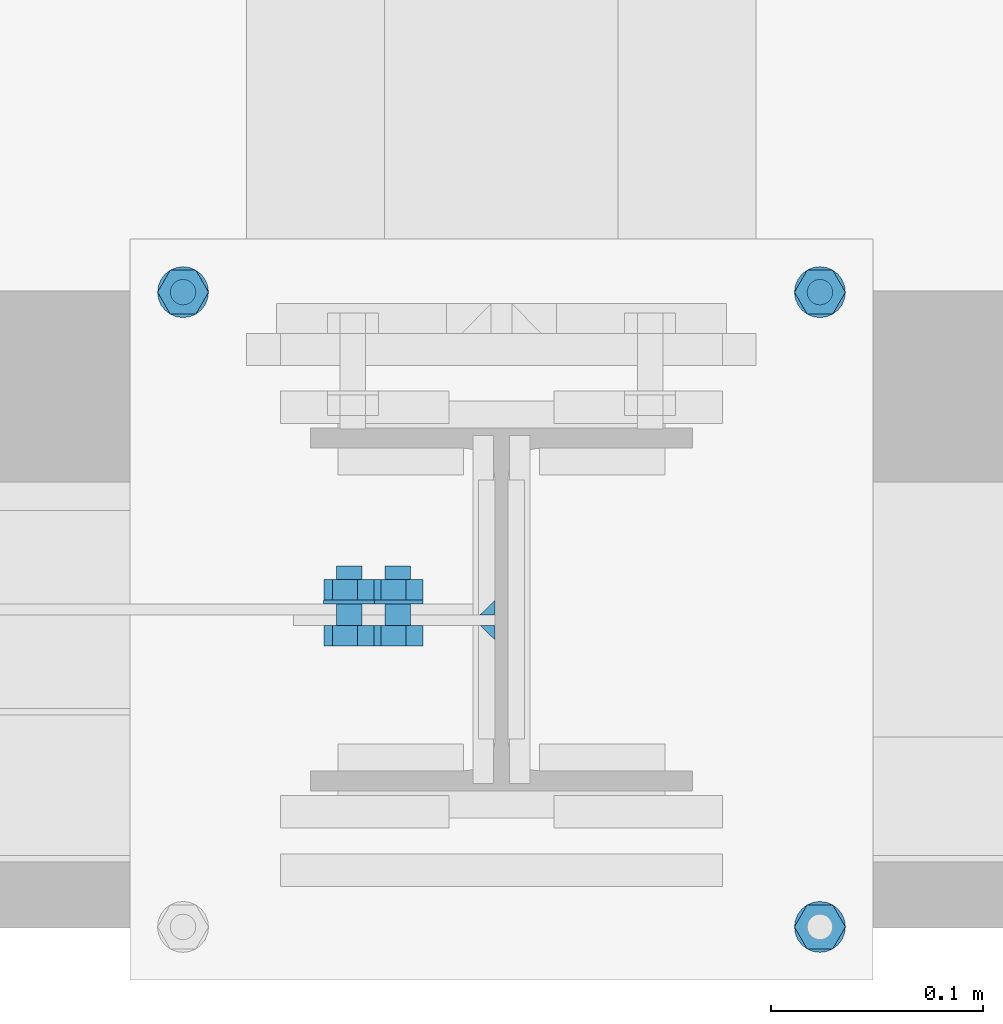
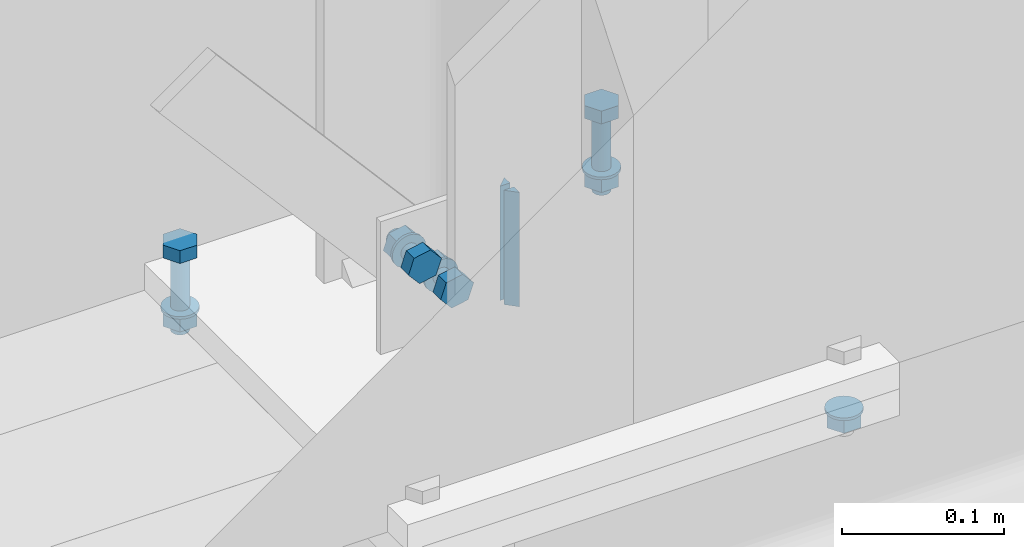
# One storey, part 30 of 66: 18 mechanical fasteners, 2 fasteners.
"""IFC4 building model written with IfcOpenShell, lengths in metres."""

from ifc_helpers import new_model, si_unit, frame, origin_with_axes, place, context, project, spatial, polyline, outline, extrude, type_object, element, save


model = new_model("IFC4")

# Units and contexts
model_context = context("Model", 3, precision=1e-05, world=origin_with_axes())
ifc_project = project(units=[si_unit("LENGTHUNIT", "METRE"), si_unit("AREAUNIT", "SQUARE_METRE"), si_unit("VOLUMEUNIT", "CUBIC_METRE"), si_unit("MASSUNIT", "GRAM", prefix="KILO"), si_unit("TIMEUNIT", "SECOND"), si_unit("PLANEANGLEUNIT", "RADIAN"), si_unit("SOLIDANGLEUNIT", "STERADIAN"), si_unit("THERMODYNAMICTEMPERATUREUNIT", "DEGREE_CELSIUS")], contexts=[model_context])

# Site, building, storey
placement_1 = place(None, origin_with_axes())
site = spatial("IfcSite", under=ifc_project, at=placement_1, Name="Italia", CompositionType="ELEMENT")
building = spatial("IfcBuilding", under=site, at=placement_1, Name="Uffici", CompositionType="ELEMENT")
storey_placement = place(None, frame((0.0, 0.0, 3.299999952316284), z_axis=(0.0, 0.0, 1.0), x_axis=(1.0, 0.0, 0.0)))
storey = spatial("IfcBuildingStorey", under=building, at=storey_placement, Name="Storey 1", CompositionType="ELEMENT", Elevation=3.299999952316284)

# Mechanical fasteners
mechanical_fastener_type_1 = type_object("IfcMechanicalFastenerType", Name="Collegamenti 0101_0201 0102_0202 0103_0203 0104_0204 0105_0205", PredefinedType="BOLT")
placement_2 = place(placement_1, origin_with_axes())
mechanical_fastener_1_placement = place(placement_2, origin_with_axes())
element("IfcMechanicalFastener", 1, at=mechanical_fastener_1_placement, inside=storey, type_object=mechanical_fastener_type_1, Name="Collegamenti 0101_0201 0102_0202 0103_0203 0104_0204 0105_0205", NominalDiameter=0.0119998, context=model_context, shape_type="SweptSolid", body=[
    extrude(outline(polyline([(0.0, 0.0), (0.0, 0.0119998), (0.0103923, 0.0179999), (0.0207846, 0.0119998), (0.0207846, 0.0), (0.0103923, -0.00600004), (0.0, 0.0)])), frame((3.361, -0.159892, 3.2684), z_axis=(0.0, 0.0, 1.0), x_axis=(0.0, 1.0, 0.0)), (0.0, 0.0, 1.0), 0.00959992),
])
mechanical_fastener_type_2 = type_object("IfcMechanicalFastenerType", Name="Collegamenti 0101_0201 0102_0202 0103_0203 0104_0204 0105_0205", PredefinedType="BOLT")
mechanical_fastener_2_placement = place(placement_2, origin_with_axes())
element("IfcMechanicalFastener", 2, at=mechanical_fastener_2_placement, inside=storey, type_object=mechanical_fastener_type_2, Name="Collegamenti 0101_0201 0102_0202 0103_0203 0104_0204 0105_0205", NominalDiameter=0.024, context=model_context, shape_type="SweptSolid", body=[
    extrude(outline(polyline([(0.0, 0.0), (-0.000408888, -0.00310588), (-0.00160769, -0.00600004), (-0.00351471, -0.00848532), (-0.006, -0.0103922), (-0.00889416, -0.0115912), (-0.012, -0.0120001), (-0.0151058, -0.0115912), (-0.018, -0.0103922), (-0.0204853, -0.00848532), (-0.0223923, -0.00600004), (-0.0235911, -0.00310588), (-0.024, 0.0), (-0.0235911, 0.00310588), (-0.0223923, 0.00600004), (-0.0204853, 0.00848532), (-0.018, 0.0103922), (-0.0151058, 0.0115912), (-0.012, 0.0120001), (-0.00889416, 0.0115912), (-0.006, 0.0103922), (-0.00351471, 0.00848532), (-0.00160769, 0.00600004), (-0.000408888, 0.00310588), (0.0, 0.0)])), frame((3.355, -0.1375, 3.278), z_axis=(0.0, 0.0, 1.0), x_axis=(0.0, 1.0, 0.0)), (0.0, 0.0, 1.0), 0.00200009),
])
mechanical_fastener_type_3 = type_object("IfcMechanicalFastenerType", Name="Collegamenti 0101_0201 0102_0202 0103_0203 0104_0204 0105_0205", PredefinedType="BOLT")
mechanical_fastener_3_placement = place(placement_2, origin_with_axes())
element("IfcMechanicalFastener", 3, at=mechanical_fastener_3_placement, inside=storey, type_object=mechanical_fastener_type_3, Name="Collegamenti 0101_0201 0102_0202 0103_0203 0104_0204 0105_0205", NominalDiameter=0.0119998, context=model_context, shape_type="SweptSolid", body=[
    extrude(outline(polyline([(0.0, 0.0), (0.0, 0.0119998), (0.0103923, 0.0179999), (0.0207846, 0.0119998), (0.0207846, 0.0), (0.0103923, -0.00600004), (0.0, 0.0)])), frame((3.061, 0.139108, 3.32), z_axis=(0.0, 0.0, 1.0), x_axis=(0.0, 1.0, 0.0)), (0.0, 0.0, 1.0), 0.00959992),
])
mechanical_fastener_type_4 = type_object("IfcMechanicalFastenerType", Name="Collegamenti 0101_0201 0102_0202 0103_0203 0104_0204 0105_0205", PredefinedType="BOLT")
mechanical_fastener_4_placement = place(placement_2, origin_with_axes())
element("IfcMechanicalFastener", 4, at=mechanical_fastener_4_placement, inside=storey, type_object=mechanical_fastener_type_4, Name="Collegamenti 0101_0201 0102_0202 0103_0203 0104_0204 0105_0205", NominalDiameter=0.012, context=model_context, shape_type="SweptSolid", body=[
    extrude(outline(polyline([(0.0, 0.0), (-0.000204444, -0.00155282), (-0.000803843, -0.00300002), (-0.00175735, -0.00424266), (-0.00299999, -0.00519609), (-0.00444709, -0.00579548), (-0.006, -0.00600004), (-0.00755291, -0.00579548), (-0.009, -0.00519609), (-0.0102426, -0.00424266), (-0.0111962, -0.00300002), (-0.0117956, -0.00155282), (-0.012, 0.0), (-0.0117956, 0.00155282), (-0.0111962, 0.00300002), (-0.0102426, 0.00424266), (-0.009, 0.00519609), (-0.00755291, 0.00579548), (-0.006, 0.00600004), (-0.00444709, 0.00579548), (-0.00299999, 0.00519609), (-0.00175735, 0.00424266), (-0.000803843, 0.00300002), (-0.000204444, 0.00155282), (0.0, 0.0)])), frame((3.055, 0.1555, 3.262), z_axis=(0.0, 0.0, 1.0), x_axis=(0.0, 1.0, 0.0)), (0.0, 0.0, 1.0), 0.0580001),
])
mechanical_fastener_type_5 = type_object("IfcMechanicalFastenerType", Name="Collegamenti 0101_0201 0102_0202 0103_0203 0104_0204 0105_0205", PredefinedType="BOLT")
mechanical_fastener_5_placement = place(placement_2, origin_with_axes())
element("IfcMechanicalFastener", 5, at=mechanical_fastener_5_placement, inside=storey, type_object=mechanical_fastener_type_5, Name="Collegamenti 0101_0201 0102_0202 0103_0203 0104_0204 0105_0205", NominalDiameter=0.0119998, context=model_context, shape_type="SweptSolid", body=[
    extrude(outline(polyline([(0.0, 0.0), (0.0, 0.0119998), (0.0103923, 0.0179999), (0.0207846, 0.0119998), (0.0207846, 0.0), (0.0103923, -0.00600004), (0.0, 0.0)])), frame((3.061, 0.139108, 3.2684), z_axis=(0.0, 0.0, 1.0), x_axis=(0.0, 1.0, 0.0)), (0.0, 0.0, 1.0), 0.00959992),
])
mechanical_fastener_type_6 = type_object("IfcMechanicalFastenerType", Name="Collegamenti 0101_0201 0102_0202 0103_0203 0104_0204 0105_0205", PredefinedType="BOLT")
mechanical_fastener_6_placement = place(placement_2, origin_with_axes())
element("IfcMechanicalFastener", 6, at=mechanical_fastener_6_placement, inside=storey, type_object=mechanical_fastener_type_6, Name="Collegamenti 0101_0201 0102_0202 0103_0203 0104_0204 0105_0205", NominalDiameter=0.024, context=model_context, shape_type="SweptSolid", body=[
    extrude(outline(polyline([(0.0, 0.0), (-0.000408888, -0.00310588), (-0.00160769, -0.00600004), (-0.00351471, -0.00848532), (-0.006, -0.0103922), (-0.00889416, -0.0115912), (-0.012, -0.0120001), (-0.0151058, -0.0115912), (-0.018, -0.0103922), (-0.0204853, -0.00848532), (-0.0223923, -0.00600004), (-0.0235911, -0.00310588), (-0.024, 0.0), (-0.0235911, 0.00310588), (-0.0223923, 0.00600004), (-0.0204853, 0.00848532), (-0.018, 0.0103922), (-0.0151058, 0.0115912), (-0.012, 0.0120001), (-0.00889416, 0.0115912), (-0.006, 0.0103922), (-0.00351471, 0.00848532), (-0.00160769, 0.00600004), (-0.000408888, 0.00310588), (0.0, 0.0)])), frame((3.055, 0.1615, 3.278), z_axis=(0.0, 0.0, 1.0), x_axis=(0.0, 1.0, 0.0)), (0.0, 0.0, 1.0), 0.00200009),
])
mechanical_fastener_type_7 = type_object("IfcMechanicalFastenerType", Name="Collegamenti 0101_0201 0102_0202 0103_0203 0104_0204 0105_0205", PredefinedType="BOLT")
mechanical_fastener_7_placement = place(placement_2, origin_with_axes())
element("IfcMechanicalFastener", 7, at=mechanical_fastener_7_placement, inside=storey, type_object=mechanical_fastener_type_7, Name="Collegamenti 0101_0201 0102_0202 0103_0203 0104_0204 0105_0205", NominalDiameter=0.0119998, context=model_context, shape_type="SweptSolid", body=[
    extrude(outline(polyline([(0.0, 0.0), (0.0, 0.0119998), (0.0103923, 0.0179999), (0.0207846, 0.0119998), (0.0207846, 0.0), (0.0103923, -0.00600004), (0.0, 0.0)])), frame((3.361, 0.139108, 3.32), z_axis=(0.0, 0.0, 1.0), x_axis=(0.0, 1.0, 0.0)), (0.0, 0.0, 1.0), 0.00959992),
])
mechanical_fastener_type_8 = type_object("IfcMechanicalFastenerType", Name="Collegamenti 0101_0201 0102_0202 0103_0203 0104_0204 0105_0205", PredefinedType="BOLT")
mechanical_fastener_8_placement = place(placement_2, origin_with_axes())
element("IfcMechanicalFastener", 8, at=mechanical_fastener_8_placement, inside=storey, type_object=mechanical_fastener_type_8, Name="Collegamenti 0101_0201 0102_0202 0103_0203 0104_0204 0105_0205", NominalDiameter=0.012, context=model_context, shape_type="SweptSolid", body=[
    extrude(outline(polyline([(0.0, 0.0), (-0.000204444, -0.00155282), (-0.000803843, -0.00300002), (-0.00175735, -0.00424266), (-0.00299999, -0.00519609), (-0.00444709, -0.00579548), (-0.006, -0.00600004), (-0.00755291, -0.00579548), (-0.009, -0.00519609), (-0.0102426, -0.00424266), (-0.0111962, -0.00300002), (-0.0117956, -0.00155282), (-0.012, 0.0), (-0.0117956, 0.00155282), (-0.0111962, 0.00300002), (-0.0102426, 0.00424266), (-0.009, 0.00519609), (-0.00755291, 0.00579548), (-0.006, 0.00600004), (-0.00444709, 0.00579548), (-0.00299999, 0.00519609), (-0.00175735, 0.00424266), (-0.000803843, 0.00300002), (-0.000204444, 0.00155282), (0.0, 0.0)])), frame((3.355, 0.1555, 3.262), z_axis=(0.0, 0.0, 1.0), x_axis=(0.0, 1.0, 0.0)), (0.0, 0.0, 1.0), 0.0580001),
])
mechanical_fastener_type_9 = type_object("IfcMechanicalFastenerType", Name="Collegamenti 0101_0201 0102_0202 0103_0203 0104_0204 0105_0205", PredefinedType="BOLT")
mechanical_fastener_9_placement = place(placement_2, origin_with_axes())
element("IfcMechanicalFastener", 9, at=mechanical_fastener_9_placement, inside=storey, type_object=mechanical_fastener_type_9, Name="Collegamenti 0101_0201 0102_0202 0103_0203 0104_0204 0105_0205", NominalDiameter=0.0119998, context=model_context, shape_type="SweptSolid", body=[
    extrude(outline(polyline([(0.0, 0.0), (0.0, 0.0119998), (0.0103923, 0.0179999), (0.0207846, 0.0119998), (0.0207846, 0.0), (0.0103923, -0.00600004), (0.0, 0.0)])), frame((3.361, 0.139108, 3.2684), z_axis=(0.0, 0.0, 1.0), x_axis=(0.0, 1.0, 0.0)), (0.0, 0.0, 1.0), 0.00959992),
])
mechanical_fastener_type_10 = type_object("IfcMechanicalFastenerType", Name="Collegamenti 0101_0201 0102_0202 0103_0203 0104_0204 0105_0205", PredefinedType="BOLT")
mechanical_fastener_10_placement = place(placement_2, origin_with_axes())
element("IfcMechanicalFastener", 10, at=mechanical_fastener_10_placement, inside=storey, type_object=mechanical_fastener_type_10, Name="Collegamenti 0101_0201 0102_0202 0103_0203 0104_0204 0105_0205", NominalDiameter=0.024, context=model_context, shape_type="SweptSolid", body=[
    extrude(outline(polyline([(0.0, 0.0), (-0.000408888, -0.00310588), (-0.00160769, -0.00600004), (-0.00351471, -0.00848532), (-0.006, -0.0103922), (-0.00889416, -0.0115912), (-0.012, -0.0120001), (-0.0151058, -0.0115912), (-0.018, -0.0103922), (-0.0204853, -0.00848532), (-0.0223923, -0.00600004), (-0.0235911, -0.00310588), (-0.024, 0.0), (-0.0235911, 0.00310588), (-0.0223923, 0.00600004), (-0.0204853, 0.00848532), (-0.018, 0.0103922), (-0.0151058, 0.0115912), (-0.012, 0.0120001), (-0.00889416, 0.0115912), (-0.006, 0.0103922), (-0.00351471, 0.00848532), (-0.00160769, 0.00600004), (-0.000408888, 0.00310588), (0.0, 0.0)])), frame((3.355, 0.1615, 3.278), z_axis=(0.0, 0.0, 1.0), x_axis=(0.0, 1.0, 0.0)), (0.0, 0.0, 1.0), 0.00200009),
])
mechanical_fastener_type_11 = type_object("IfcMechanicalFastenerType", Name="Collegamento 0102_0201", PredefinedType="BOLT")
mechanical_fastener_11_placement = place(placement_2, origin_with_axes())
element("IfcMechanicalFastener", 11, at=mechanical_fastener_11_placement, inside=storey, type_object=mechanical_fastener_type_11, Name="Collegamento 0102_0201", NominalDiameter=0.0119999, context=model_context, shape_type="SweptSolid", body=[
    extrude(outline(polyline([(0.0, 0.0), (0.00786185, -0.00906587), (0.019644, -0.00679016), (0.0235643, 0.00455141), (0.0157025, 0.0136173), (0.00392032, 0.0113416), (0.0, 0.0)])), frame((3.14436, -0.0075, 3.35407), z_axis=(0.0, -1.0, 0.0), x_axis=(1.0, 0.0, 0.0)), (0.0, 0.0, 1.0), 0.0096),
])
mechanical_fastener_type_12 = type_object("IfcMechanicalFastenerType", Name="Collegamento 0102_0201", PredefinedType="BOLT")
mechanical_fastener_12_placement = place(placement_2, origin_with_axes())
element("IfcMechanicalFastener", 12, at=mechanical_fastener_12_placement, inside=storey, type_object=mechanical_fastener_type_12, Name="Collegamento 0102_0201", NominalDiameter=0.012, context=model_context, shape_type="SweptSolid", body=[
    extrude(outline(polyline([(0.0, 0.0), (-0.000204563, -0.00155282), (-0.000803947, -0.00300002), (-0.00175738, -0.00424266), (-0.00300002, -0.00519609), (-0.00444722, -0.00579548), (-0.00600004, -0.00600004), (-0.00755286, -0.00579548), (-0.00900006, -0.00519609), (-0.0102427, -0.00424266), (-0.0111961, -0.00300002), (-0.0117955, -0.00155282), (-0.0120001, 0.0), (-0.0117955, 0.00155282), (-0.0111961, 0.00300002), (-0.0102427, 0.00424266), (-0.00900006, 0.00519609), (-0.00755286, 0.00579548), (-0.00600004, 0.00600004), (-0.00444722, 0.00579548), (-0.00300002, 0.00519609), (-0.00175738, 0.00424266), (-0.000803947, 0.00300002), (-0.000204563, 0.00155282), (0.0, 0.0)])), frame((3.16214, 0.0205, 3.35634), z_axis=(0.0, -1.0, 0.0), x_axis=(1.0, 0.0, 0.0)), (0.0, 0.0, 1.0), 0.028),
])
mechanical_fastener_type_13 = type_object("IfcMechanicalFastenerType", Name="Collegamento 0102_0201", PredefinedType="BOLT")
mechanical_fastener_13_placement = place(placement_2, origin_with_axes())
element("IfcMechanicalFastener", 13, at=mechanical_fastener_13_placement, inside=storey, type_object=mechanical_fastener_type_13, Name="Collegamento 0102_0201", NominalDiameter=0.0119999, context=model_context, shape_type="SweptSolid", body=[
    extrude(outline(polyline([(0.0, 0.0), (0.00786185, -0.00906587), (0.019644, -0.00679016), (0.0235643, 0.00455141), (0.0157025, 0.0136173), (0.00392032, 0.0113416), (0.0, 0.0)])), frame((3.14436, 0.0141, 3.35407), z_axis=(0.0, -1.0, 0.0), x_axis=(1.0, 0.0, 0.0)), (0.0, 0.0, 1.0), 0.0096),
])
mechanical_fastener_type_14 = type_object("IfcMechanicalFastenerType", Name="Collegamento 0102_0201", PredefinedType="BOLT")
mechanical_fastener_14_placement = place(placement_2, origin_with_axes())
element("IfcMechanicalFastener", 14, at=mechanical_fastener_14_placement, inside=storey, type_object=mechanical_fastener_type_14, Name="Collegamento 0102_0201", NominalDiameter=0.024, context=model_context, shape_type="SweptSolid", body=[
    extrude(outline(polyline([(0.0, 0.0), (-0.000408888, -0.00310588), (-0.00160789, -0.00600004), (-0.00351477, -0.00848532), (-0.00600004, -0.0103922), (-0.00889421, -0.0115912), (-0.0120001, -0.0120001), (-0.015106, -0.0115912), (-0.0180001, -0.0103922), (-0.0204854, -0.00848532), (-0.0223923, -0.00600004), (-0.0235913, -0.00310588), (-0.0240002, 0.0), (-0.0235913, 0.00310588), (-0.0223923, 0.00600004), (-0.0204854, 0.00848532), (-0.0180001, 0.0103922), (-0.015106, 0.0115912), (-0.0120001, 0.0120001), (-0.00889421, 0.0115912), (-0.00600004, 0.0103922), (-0.00351477, 0.00848532), (-0.00160789, 0.00600004), (-0.000408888, 0.00310588), (0.0, 0.0)])), frame((3.16814, 0.0045, 3.35634), z_axis=(0.0, -1.0, 0.0), x_axis=(1.0, 0.0, 0.0)), (0.0, 0.0, 1.0), 0.002),
])
mechanical_fastener_type_15 = type_object("IfcMechanicalFastenerType", Name="Collegamento 0102_0201", PredefinedType="BOLT")
mechanical_fastener_15_placement = place(placement_2, origin_with_axes())
element("IfcMechanicalFastener", 15, at=mechanical_fastener_15_placement, inside=storey, type_object=mechanical_fastener_type_15, Name="Collegamento 0102_0201", NominalDiameter=0.0119999, context=model_context, shape_type="SweptSolid", body=[
    extrude(outline(polyline([(0.0, 0.0), (0.00786209, -0.00906587), (0.0196443, -0.00679016), (0.0235646, 0.00455141), (0.0157027, 0.0136173), (0.00392032, 0.0113416), (0.0, 0.0)])), frame((3.12143, -0.0075, 3.38051), z_axis=(0.0, -1.0, 0.0), x_axis=(1.0, 0.0, 0.0)), (0.0, 0.0, 1.0), 0.0096),
])
mechanical_fastener_type_16 = type_object("IfcMechanicalFastenerType", Name="Collegamento 0102_0201", PredefinedType="BOLT")
mechanical_fastener_16_placement = place(placement_2, origin_with_axes())
element("IfcMechanicalFastener", 16, at=mechanical_fastener_16_placement, inside=storey, type_object=mechanical_fastener_type_16, Name="Collegamento 0102_0201", NominalDiameter=0.012, context=model_context, shape_type="SweptSolid", body=[
    extrude(outline(polyline([(0.0, 0.0), (-0.000204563, -0.00155282), (-0.000803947, -0.00300002), (-0.00175738, -0.00424266), (-0.00300002, -0.00519609), (-0.00444722, -0.00579548), (-0.00600004, -0.00600004), (-0.00755286, -0.00579548), (-0.00900006, -0.00519609), (-0.0102427, -0.00424266), (-0.0111961, -0.00300002), (-0.0117955, -0.00155282), (-0.0120001, 0.0), (-0.0117955, 0.00155282), (-0.0111961, 0.00300002), (-0.0102427, 0.00424266), (-0.00900006, 0.00519609), (-0.00755286, 0.00579548), (-0.00600004, 0.00600004), (-0.00444722, 0.00579548), (-0.00300002, 0.00519609), (-0.00175738, 0.00424266), (-0.000803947, 0.00300002), (-0.000204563, 0.00155282), (0.0, 0.0)])), frame((3.13921, 0.0205, 3.38279), z_axis=(0.0, -1.0, 0.0), x_axis=(1.0, 0.0, 0.0)), (0.0, 0.0, 1.0), 0.028),
])
mechanical_fastener_type_17 = type_object("IfcMechanicalFastenerType", Name="Collegamento 0102_0201", PredefinedType="BOLT")
mechanical_fastener_17_placement = place(placement_2, origin_with_axes())
element("IfcMechanicalFastener", 17, at=mechanical_fastener_17_placement, inside=storey, type_object=mechanical_fastener_type_17, Name="Collegamento 0102_0201", NominalDiameter=0.0119999, context=model_context, shape_type="SweptSolid", body=[
    extrude(outline(polyline([(0.0, 0.0), (0.00786209, -0.00906587), (0.0196443, -0.00679016), (0.0235646, 0.00455141), (0.0157027, 0.0136173), (0.00392032, 0.0113416), (0.0, 0.0)])), frame((3.12143, 0.0141, 3.38051), z_axis=(0.0, -1.0, 0.0), x_axis=(1.0, 0.0, 0.0)), (0.0, 0.0, 1.0), 0.0096),
])
mechanical_fastener_type_18 = type_object("IfcMechanicalFastenerType", Name="Collegamento 0102_0201", PredefinedType="BOLT")
mechanical_fastener_18_placement = place(placement_2, origin_with_axes())
element("IfcMechanicalFastener", 18, at=mechanical_fastener_18_placement, inside=storey, type_object=mechanical_fastener_type_18, Name="Collegamento 0102_0201", NominalDiameter=0.024, context=model_context, shape_type="SweptSolid", body=[
    extrude(outline(polyline([(0.0, 0.0), (-0.000408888, -0.00310588), (-0.00160789, -0.00600004), (-0.00351477, -0.00848532), (-0.00600004, -0.0103922), (-0.00889421, -0.0115912), (-0.0120001, -0.0120001), (-0.015106, -0.0115912), (-0.0180001, -0.0103922), (-0.0204854, -0.00848532), (-0.0223923, -0.00600004), (-0.0235913, -0.00310588), (-0.0240002, 0.0), (-0.0235913, 0.00310588), (-0.0223923, 0.00600004), (-0.0204854, 0.00848532), (-0.0180001, 0.0103922), (-0.015106, 0.0115912), (-0.0120001, 0.0120001), (-0.00889421, 0.0115912), (-0.00600004, 0.0103922), (-0.00351477, 0.00848532), (-0.00160789, 0.00600004), (-0.000408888, 0.00310588), (0.0, 0.0)])), frame((3.14521, 0.0045, 3.38279), z_axis=(0.0, -1.0, 0.0), x_axis=(1.0, 0.0, 0.0)), (0.0, 0.0, 1.0), 0.002),
])

# Fasteners
fastener_type_1 = type_object("IfcFastenerType", Name="Collegamento 0102_0201", PredefinedType="WELD")
fastener_1_placement = place(placement_2, origin_with_axes())
element("IfcFastener", 19, at=fastener_1_placement, inside=storey, type_object=fastener_type_1, Name="Collegamento 0102_0201", context=model_context, shape_type="SweptSolid", body=[
    extrude(outline(polyline([(0.0, 0.0), (-0.00695816, -0.0071733), (-0.00695816, 0.0), (0.0, 0.0)])), frame((3.20205, 0.00440816, 3.41301), z_axis=(0.0, 0.0, -1.0), x_axis=(0.0, 1.0, 0.0)), (0.0, 0.0, 1.0), 0.0861001),
])
fastener_type_2 = type_object("IfcFastenerType", Name="Collegamento 0102_0201", PredefinedType="WELD")
fastener_2_placement = place(placement_2, origin_with_axes())
element("IfcFastener", 20, at=fastener_2_placement, inside=storey, type_object=fastener_type_2, Name="Collegamento 0102_0201", context=model_context, shape_type="SweptSolid", body=[
    extrude(outline(polyline([(0.0, 0.0), (0.00695815, 0.00717354), (0.00695815, 0.0), (0.0, 0.0)])), frame((3.20205, -0.0144082, 3.32691), z_axis=(0.0, 0.0, 1.0), x_axis=(0.0, 1.0, 0.0)), (0.0, 0.0, 1.0), 0.0861001),
])

save(model, "model.ifc")
